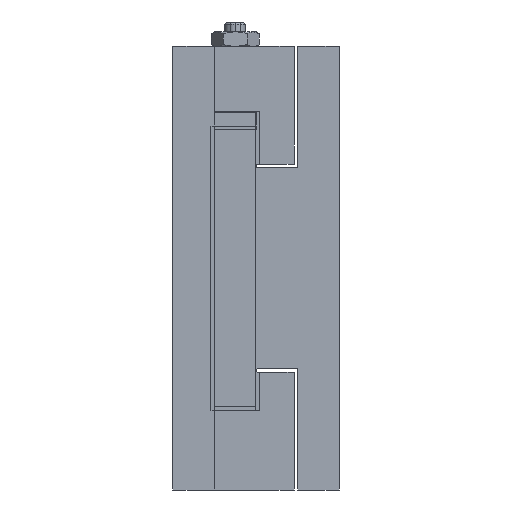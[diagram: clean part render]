
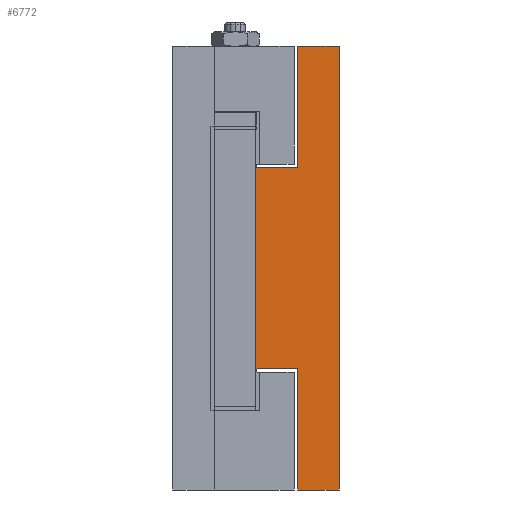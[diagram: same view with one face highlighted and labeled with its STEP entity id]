
A CAD part, left-side view. The second image highlights one B-rep face of the part: STEP entity #6772.
In plain terms, the highlighted planar face has unit normal (-1, 0, 0).
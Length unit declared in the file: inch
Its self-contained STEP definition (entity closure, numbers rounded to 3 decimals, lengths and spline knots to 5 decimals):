
#2502 = LINE ( 'NONE', #2542, #2541 ) ;
#2539 = LINE ( 'NONE', #2547, #2588 ) ;
#2540 = DIRECTION ( 'NONE',  ( 0., -1., 0. ) ) ;
#2541 = VECTOR ( 'NONE', #2540, 39.37008 ) ;
#2542 = CARTESIAN_POINT ( 'NONE',  ( 0., 0.75, 2. ) ) ;
#2543 = CARTESIAN_POINT ( 'NONE',  ( 0., 0.375, 0.90625 ) ) ;
#2546 = CARTESIAN_POINT ( 'NONE',  ( 0., 0.375, 2. ) ) ;
#2547 = CARTESIAN_POINT ( 'NONE',  ( 0., 0., 2. ) ) ;
#2570 = AXIS2_PLACEMENT_3D ( 'NONE', #2615, #2613, #2612 ) ;
#2574 = DIRECTION ( 'NONE',  ( 0., 0., -1. ) ) ;
#2575 = VECTOR ( 'NONE', #2574, 39.37008 ) ;
#2582 = DIRECTION ( 'NONE',  ( 0., 1., 0. ) ) ;
#2583 = VECTOR ( 'NONE', #2582, 39.37008 ) ;
#2584 = CARTESIAN_POINT ( 'NONE',  ( 0., 0.75, -2. ) ) ;
#2585 = LINE ( 'NONE', #2584, #2583 ) ;
#2587 = DIRECTION ( 'NONE',  ( 0., 0., -1. ) ) ;
#2588 = VECTOR ( 'NONE', #2587, 39.37008 ) ;
#2594 = CARTESIAN_POINT ( 'NONE',  ( 0., 0.375, -2. ) ) ;
#2595 = LINE ( 'NONE', #2594, #2575 ) ;
#2597 = CARTESIAN_POINT ( 'NONE',  ( 0., 0.375, 2. ) ) ;
#2600 = LINE ( 'NONE', #2597, #2657 ) ;
#2601 = DIRECTION ( 'NONE',  ( 0., 1., 0. ) ) ;
#2602 = VECTOR ( 'NONE', #2601, 39.37008 ) ;
#2608 = CARTESIAN_POINT ( 'NONE',  ( 0., 0.75, 0.90625 ) ) ;
#2609 = LINE ( 'NONE', #2608, #2602 ) ;
#2612 = DIRECTION ( 'NONE',  ( 0., 0., -1. ) ) ;
#2613 = DIRECTION ( 'NONE',  ( 1., 0., 0. ) ) ;
#2615 = CARTESIAN_POINT ( 'NONE',  ( 0., 0., 2. ) ) ;
#2620 = PLANE ( 'NONE',  #2570 ) ;
#2626 = FACE_OUTER_BOUND ( 'NONE', #6084, .T. ) ;
#2656 = DIRECTION ( 'NONE',  ( 0., 0., -1. ) ) ;
#2657 = VECTOR ( 'NONE', #2656, 39.37008 ) ;
#2943 = LINE ( 'NONE', #2960, #2996 ) ;
#2959 = DIRECTION ( 'NONE',  ( 0., 0., 1. ) ) ;
#2960 = CARTESIAN_POINT ( 'NONE',  ( 0., 0.75, 2. ) ) ;
#2966 = CARTESIAN_POINT ( 'NONE',  ( 0., 0.75, -0.90625 ) ) ;
#2968 = CARTESIAN_POINT ( 'NONE',  ( 0., 0.75, 0.90625 ) ) ;
#2996 = VECTOR ( 'NONE', #2959, 39.37008 ) ;
#2999 = CARTESIAN_POINT ( 'NONE',  ( 0., 0.375, -2. ) ) ;
#3000 = CARTESIAN_POINT ( 'NONE',  ( 0., 0., -2. ) ) ;
#3004 = CARTESIAN_POINT ( 'NONE',  ( 0., 0., 2. ) ) ;
#3005 = DIRECTION ( 'NONE',  ( 0., -1., 0. ) ) ;
#3006 = VECTOR ( 'NONE', #3005, 39.37008 ) ;
#3008 = CARTESIAN_POINT ( 'NONE',  ( 0., 0.75, -0.90625 ) ) ;
#3019 = LINE ( 'NONE', #3008, #3006 ) ;
#3028 = CARTESIAN_POINT ( 'NONE',  ( 0., 0.375, -0.90625 ) ) ;
#5962 = EDGE_CURVE ( 'NONE', #6350, #7117, #2502, .T. ) ;
#6073 = EDGE_CURVE ( 'NONE', #7117, #7126, #2539, .T. ) ;
#6084 = EDGE_LOOP ( 'NONE', ( #7106, #6671, #6306, #6357, #6608, #6352, #6901, #6893 ) ) ;
#6306 = ORIENTED_EDGE ( 'NONE', *, *, #6326, .F. ) ;
#6326 = EDGE_CURVE ( 'NONE', #7126, #7127, #2585, .T. ) ;
#6350 = VERTEX_POINT ( 'NONE', #2546 ) ;
#6352 = ORIENTED_EDGE ( 'NONE', *, *, #6896, .T. ) ;
#6357 = ORIENTED_EDGE ( 'NONE', *, *, #6073, .F. ) ;
#6363 = VERTEX_POINT ( 'NONE', #2543 ) ;
#6405 = EDGE_CURVE ( 'NONE', #7119, #7127, #2595, .T. ) ;
#6608 = ORIENTED_EDGE ( 'NONE', *, *, #5962, .F. ) ;
#6671 = ORIENTED_EDGE ( 'NONE', *, *, #6405, .T. ) ;
#6772 = ADVANCED_FACE ( 'NONE', ( #2626 ), #2620, .F. ) ;
#6892 = EDGE_CURVE ( 'NONE', #6363, #7067, #2609, .T. ) ;
#6893 = ORIENTED_EDGE ( 'NONE', *, *, #7083, .F. ) ;
#6896 = EDGE_CURVE ( 'NONE', #6350, #6363, #2600, .T. ) ;
#6901 = ORIENTED_EDGE ( 'NONE', *, *, #6892, .T. ) ;
#7067 = VERTEX_POINT ( 'NONE', #2968 ) ;
#7069 = VERTEX_POINT ( 'NONE', #2966 ) ;
#7083 = EDGE_CURVE ( 'NONE', #7069, #7067, #2943, .T. ) ;
#7106 = ORIENTED_EDGE ( 'NONE', *, *, #7111, .T. ) ;
#7111 = EDGE_CURVE ( 'NONE', #7069, #7119, #3019, .T. ) ;
#7117 = VERTEX_POINT ( 'NONE', #3004 ) ;
#7119 = VERTEX_POINT ( 'NONE', #3028 ) ;
#7126 = VERTEX_POINT ( 'NONE', #3000 ) ;
#7127 = VERTEX_POINT ( 'NONE', #2999 ) ;
